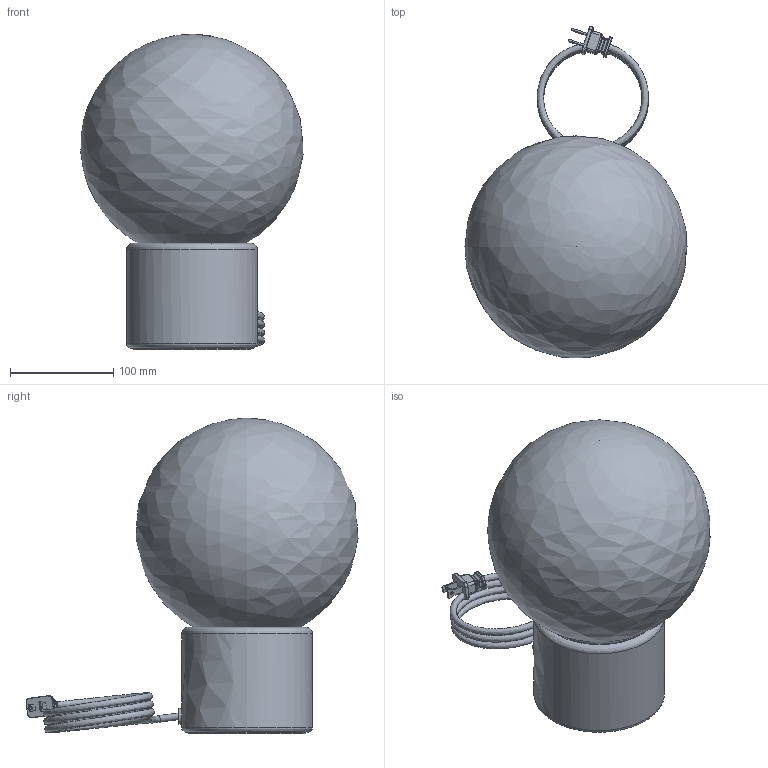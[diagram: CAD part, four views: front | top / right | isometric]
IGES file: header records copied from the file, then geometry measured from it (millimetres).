
Global section: file name: Niche - Solitaire Petite - Ionic Table Lamp - Opalia; native system: unknown; preprocessor: unknown; author: unknown; organization: unknown; date: 20250210.090731; units: inch
Bounding box: 215.34 x 321.97 x 305.75 mm (x, y, z)
Volume: 1414635.5 mm3; surface area: 570254.6 mm2
Topology: 14 solids, 14 shells, 1968 faces, 5260 edges, 3467 vertices
Faces by surface type: bspline 1967, revolution 1
